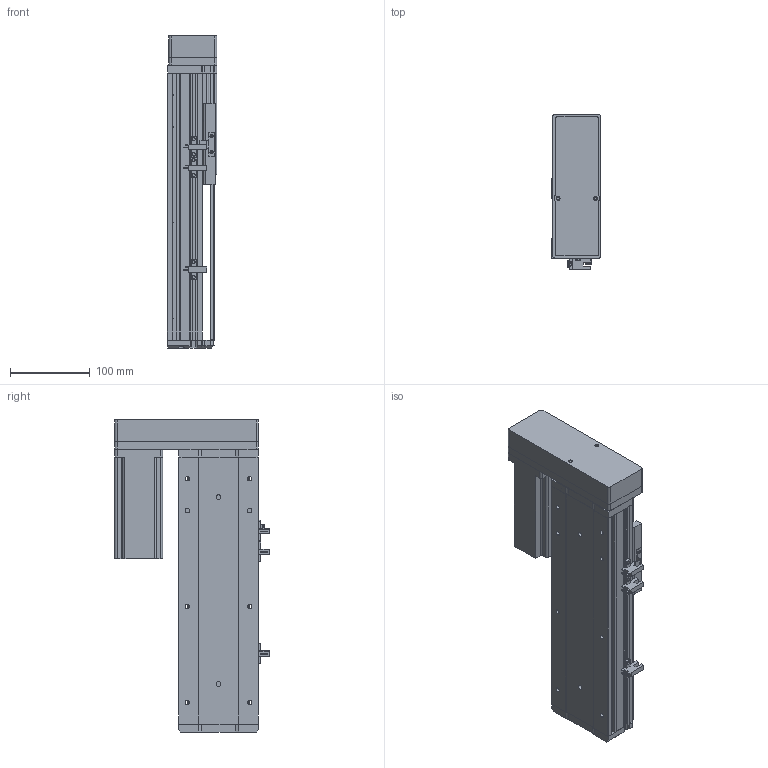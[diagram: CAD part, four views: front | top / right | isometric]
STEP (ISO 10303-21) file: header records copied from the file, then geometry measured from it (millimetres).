
FILE_DESCRIPTION (( 'STEP AP214' ), '1' );
FILE_NAME ('KSD100S-S150-ML-CM.STEP', '2019-08-30T05:51:26', ( '微软用户' ), ( '微软中国' ), 'SwSTEP 2.0', 'SolidWorks 2014', '' );
FILE_SCHEMA (( 'AUTOMOTIVE_DESIGN' ));
Length unit declared in the file: millimetre
Products named in the file (11): 悵誘欶酘衵殏; 台达ECMA－C20604AS伺服电机; 100宽马达安装板连板左右折丝杆; U倰嫖萇EEㄜSX672; 覜茼え100遵圉猾敕; 100宽防尘板丝杆150行程; 100遵鎮湛假蚾啣; 100宽滚珠螺姆安装板半封闭; 100遵傷啣; 100宽底板半封闭丝杆150行程; KSD100S-S150-ML-CM
Assembly tree (12 placements, depth 2):
  KSD100S-S150-ML-CM
    100宽底板半封闭丝杆150行程
    100遵傷啣
    100宽滚珠螺姆安装板半封闭
    100遵鎮湛假蚾啣
    100宽防尘板丝杆150行程
    覜茼え100遵圉猾敕
    U倰嫖萇EEㄜSX672  x3
    100宽马达安装板连板左右折丝杆
    台达ECMA－C20604AS伺服电机
    悵誘欶酘衵殏
Bounding box: 62 x 193.7 x 390.5 mm (x, y, z)
Volume: 1395942.8 mm3; surface area: 406520 mm2
Topology: 13 solids, 13 shells, 1107 faces, 3102 edges, 1991 vertices
Faces by surface type: cylinder 524, plane 492, cone 91
Entity records: 37119 total; most frequent: CARTESIAN_POINT 6647, DIRECTION 5145, ORIENTED_EDGE 4928, EDGE_CURVE 2464, AXIS2_PLACEMENT_3D 1853, VERTEX_POINT 1615, LINE 1439, VECTOR 1439
